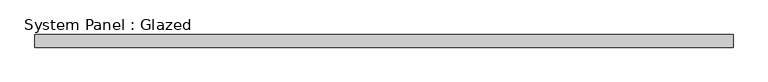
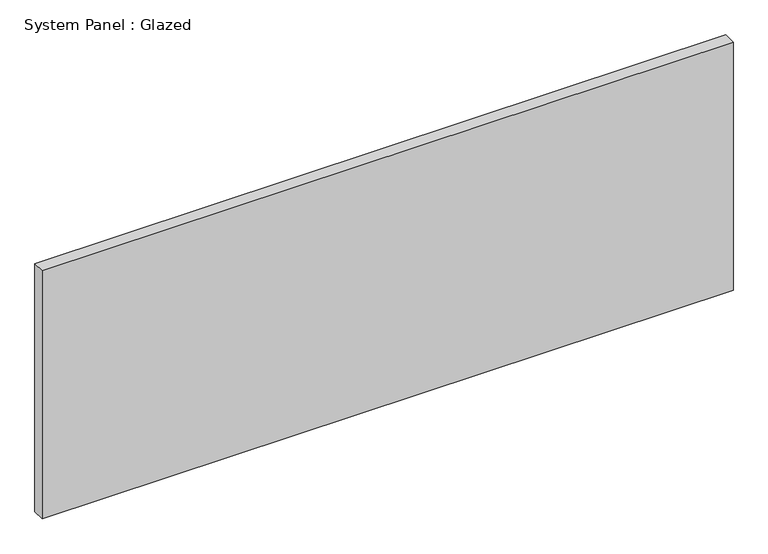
"""IFC4 building model written with IfcOpenShell, lengths in millimetres: plate geometry, System Panel : Glazed."""

from ifc_helpers import new_model, si_unit, origin, origin_with_axes, place, context, project, spatial, polyline, outline, extrude, source, transform, mapped, element, save


def system_panel_glazed_40156a33(model_context):
    return source(origin(), model_context, "Body", "SweptSolid", [
        extrude(outline(polyline([(691.5732572, 24.5), (-691.5732572, 24.5), (-691.5732572, 49.5), (691.5732572, 49.5), (691.5732572, 24.5)])), origin_with_axes(), (0.0, 0.0, 1.0), 525.0),
    ])


if __name__ == "__main__":
    model = new_model("IFC4")
    model_context = context("Model", 3, world=origin())
    ifc_project = project(units=[si_unit("LENGTHUNIT", "METRE", prefix="MILLI")], contexts=[model_context])
    site = spatial("IfcSite", under=ifc_project)
    building = spatial("IfcBuilding", under=site)
    placement = place(None, origin())
    system_panel_glazed_shape = system_panel_glazed_40156a33(model_context)
    element("IfcPlate", 1, ObjectType="System Panel : Glazed", at=placement, inside=building, context=model_context, shape_type="MappedRepresentation", body=[
        mapped(system_panel_glazed_shape, transform((0.0, 0.0, 0.0), x_axis=(1.0, 0.0, 0.0), y_axis=(0.0, 1.0, 0.0), z_axis=(0.0, 0.0, 1.0))),
    ])
    save(model, "model.ifc")
